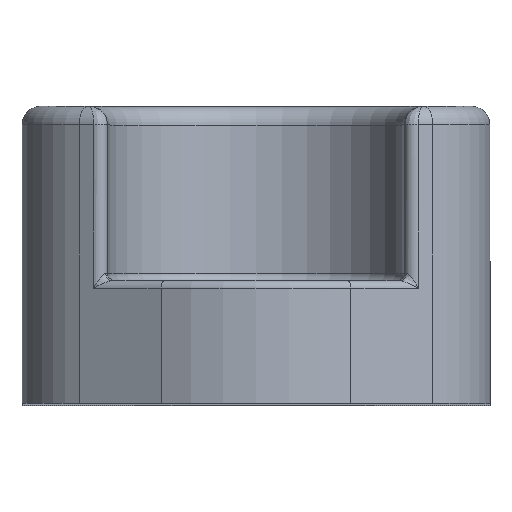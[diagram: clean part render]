
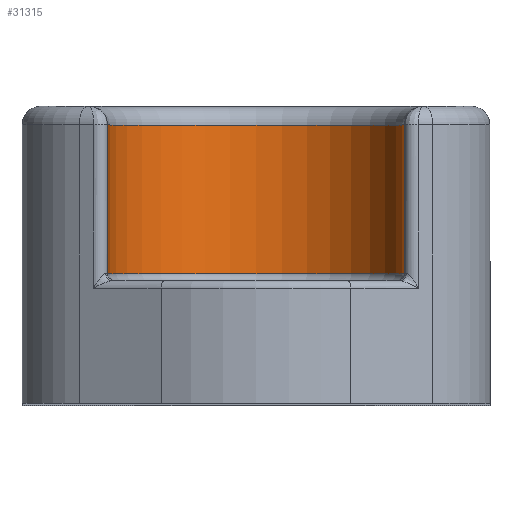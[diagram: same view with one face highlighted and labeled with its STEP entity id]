
A CAD part, top view. The second image highlights one B-rep face of the part: STEP entity #31315.
In plain terms, the highlighted cylindrical face has radius 4 mm (diameter 8 mm), a partial arc.
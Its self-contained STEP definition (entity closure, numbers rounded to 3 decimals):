
#1636 = CARTESIAN_POINT ( 'NONE',  ( -4., 3.5, 26. ) ) ;
#2472 = EDGE_CURVE ( 'NONE', #27967, #96741, #73672, .T. ) ;
#4001 = CIRCLE ( 'NONE', #40891, 4. ) ;
#13671 = VECTOR ( 'NONE', #20380, 1000. ) ;
#14404 = EDGE_CURVE ( 'NONE', #96741, #32606, #19458, .T. ) ;
#16664 = CARTESIAN_POINT ( 'NONE',  ( 0., -17.28, 26. ) ) ;
#18953 = EDGE_LOOP ( 'NONE', ( #91661, #65202, #48697, #39838 ) ) ;
#19458 = CIRCLE ( 'NONE', #72005, 4. ) ;
#19741 = CARTESIAN_POINT ( 'NONE',  ( 4., -17.28, 26. ) ) ;
#19983 = CARTESIAN_POINT ( 'NONE',  ( -4., -17.28, 26. ) ) ;
#20380 = DIRECTION ( 'NONE',  ( 0., 1., 0. ) ) ;
#24313 = CARTESIAN_POINT ( 'NONE',  ( 0., -0.5, 26. ) ) ;
#27967 = VERTEX_POINT ( 'NONE', #27995 ) ;
#27995 = CARTESIAN_POINT ( 'NONE',  ( 4., -0.5, 26. ) ) ;
#31315 = ADVANCED_FACE ( 'NONE', ( #83492 ), #43532, .F. ) ;
#31820 = DIRECTION ( 'NONE',  ( -1., 0., 0. ) ) ;
#32606 = VERTEX_POINT ( 'NONE', #1636 ) ;
#33237 = VERTEX_POINT ( 'NONE', #79873 ) ;
#35351 = AXIS2_PLACEMENT_3D ( 'NONE', #16664, #39247, #54122 ) ;
#39247 = DIRECTION ( 'NONE',  ( 0., 1., 0. ) ) ;
#39838 = ORIENTED_EDGE ( 'NONE', *, *, #14404, .T. ) ;
#40891 = AXIS2_PLACEMENT_3D ( 'NONE', #24313, #76886, #31820 ) ;
#43532 = CYLINDRICAL_SURFACE ( 'NONE', #35351, 4. ) ;
#44455 = DIRECTION ( 'NONE',  ( 0., 1., 0. ) ) ;
#48697 = ORIENTED_EDGE ( 'NONE', *, *, #2472, .T. ) ;
#48904 = LINE ( 'NONE', #19983, #86423 ) ;
#54122 = DIRECTION ( 'NONE',  ( -1., 0., 0. ) ) ;
#62026 = CARTESIAN_POINT ( 'NONE',  ( 4., 3.5, 26. ) ) ;
#65202 = ORIENTED_EDGE ( 'NONE', *, *, #67975, .T. ) ;
#67975 = EDGE_CURVE ( 'NONE', #33237, #27967, #4001, .T. ) ;
#72005 = AXIS2_PLACEMENT_3D ( 'NONE', #89363, #44455, #96962 ) ;
#72998 = EDGE_CURVE ( 'NONE', #33237, #32606, #48904, .T. ) ;
#73672 = LINE ( 'NONE', #19741, #13671 ) ;
#76886 = DIRECTION ( 'NONE',  ( 0., -1., 0. ) ) ;
#79873 = CARTESIAN_POINT ( 'NONE',  ( -4., -0.5, 26. ) ) ;
#83492 = FACE_OUTER_BOUND ( 'NONE', #18953, .T. ) ;
#86423 = VECTOR ( 'NONE', #87530, 1000. ) ;
#87530 = DIRECTION ( 'NONE',  ( 0., 1., 0. ) ) ;
#89363 = CARTESIAN_POINT ( 'NONE',  ( 0., 3.5, 26. ) ) ;
#91661 = ORIENTED_EDGE ( 'NONE', *, *, #72998, .F. ) ;
#96741 = VERTEX_POINT ( 'NONE', #62026 ) ;
#96962 = DIRECTION ( 'NONE',  ( 1., 0., 0. ) ) ;
